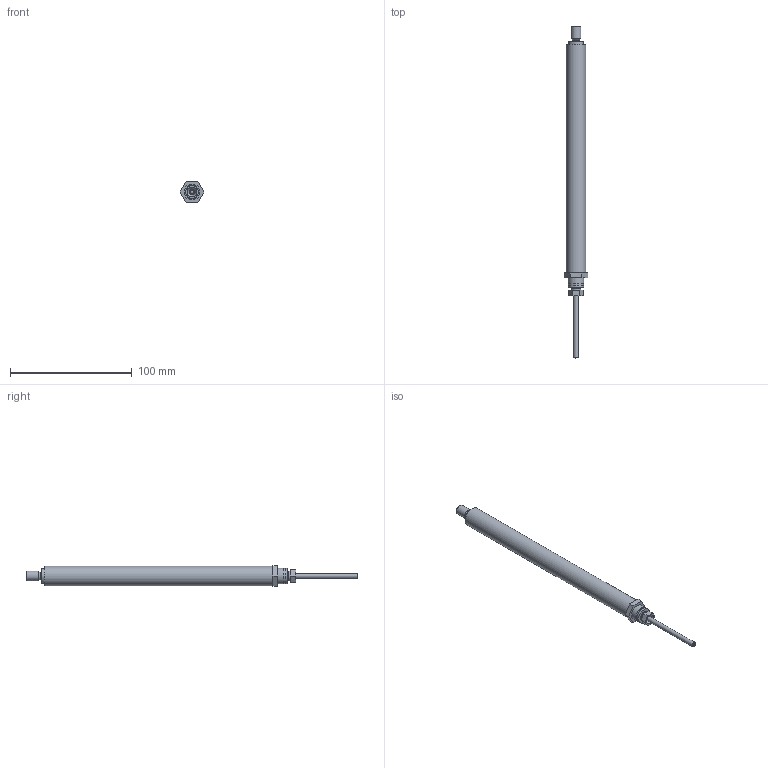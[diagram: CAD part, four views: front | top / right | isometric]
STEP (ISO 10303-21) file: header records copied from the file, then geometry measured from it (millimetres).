
FILE_DESCRIPTION(/* description */ ('Unknown'),/* implementation_level */ '2;1');
FILE_NAME(/* name */ '107.00131 Zylinder CG 1415_eingefahren',/* time_stamp */ '2018-06-15T14:56:18+02:00',/* author */ ('Unknown'),/* organization */ ('Unknown'),/* preprocessor_version */ 'ST-DEVELOPER v16.7',/* originating_system */ 'DEX',/* authorisation */ $);
FILE_SCHEMA (('AUTOMOTIVE_DESIGN {1 0 10303 214 3 1 1}'));
Length unit declared in the file: millimetre
Products named in the file (9): 107.00131; 121.00001; 142.00021; 125.00021; 115.00007_oa_0; 125.00031; 120.00021; 122.00001; 113.00002_70mm
Assembly tree (8 placements, depth 2):
  107.00131
    121.00001
    142.00021
    125.00021
    115.00007_oa_0
    125.00031
    120.00021
    122.00001
    113.00002_70mm
Bounding box: 19.63 x 273 x 17 mm (x, y, z)
Volume: 33244.8 mm3; surface area: 30167.4 mm2
Topology: 7 solids, 7 shells, 95 faces, 187 edges, 118 vertices
Faces by surface type: plane 38, cylinder 28, cone 23, torus 5, sphere 1
Full cylindrical faces by diameter (mm): 2.2 x1, 3.5 x1, 4 x1, 4.1 x1, 4.2 x1, 6 x1, 6.917 x2, 7.763 x2, 8 x4, 8.1 x3, 9 x1, 12 x2, 12.5 x1, 13 x2, 13.9 x2, 14 x2, 16 x1
Entity records: 2880 total; most frequent: DIRECTION 402, CARTESIAN_POINT 377, ORIENTED_EDGE 254, AXIS2_PLACEMENT_3D 183, FACE_BOUND 169, EDGE_LOOP 168, EDGE_CURVE 127, VERTEX_POINT 110
